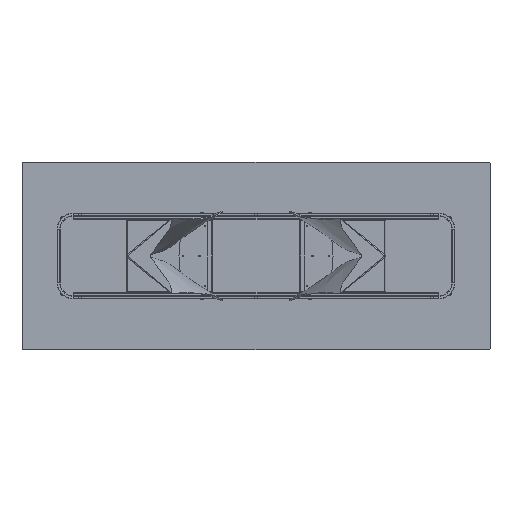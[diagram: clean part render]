
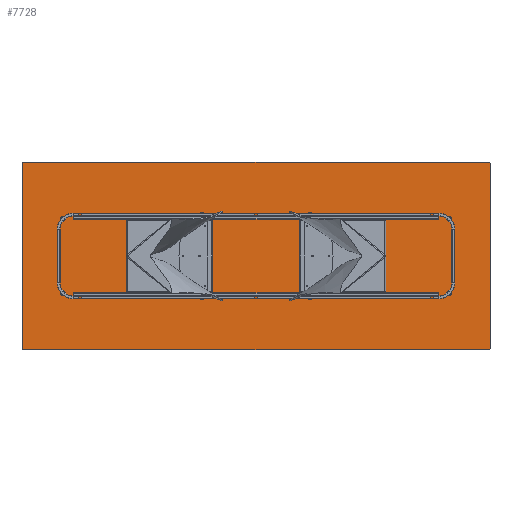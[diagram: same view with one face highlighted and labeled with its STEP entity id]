
A CAD part, front view. The second image highlights one B-rep face of the part: STEP entity #7728.
In plain terms, the highlighted planar face has unit normal (0, -1, 0).
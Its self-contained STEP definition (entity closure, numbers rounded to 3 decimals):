
#128 = DIRECTION ( 'NONE',  ( 0., -1., 0. ) ) ;
#662 = CARTESIAN_POINT ( 'NONE',  ( -1500., 0., -595. ) ) ;
#914 = FACE_OUTER_BOUND ( 'NONE', #2768, .T. ) ;
#1133 = DIRECTION ( 'NONE',  ( 0., 0., 1. ) ) ;
#1254 = DIRECTION ( 'NONE',  ( 0., -1., 0. ) ) ;
#1549 = CARTESIAN_POINT ( 'NONE',  ( 1495., 0., 600. ) ) ;
#1794 = EDGE_CURVE ( 'NONE', #18903, #20715, #4600, .T. ) ;
#2768 = EDGE_LOOP ( 'NONE', ( #15998, #18123, #14197, #13790, #4588, #6016, #11744, #6551 ) ) ;
#3133 = AXIS2_PLACEMENT_3D ( 'NONE', #14768, #7934, #20410 ) ;
#3542 = CARTESIAN_POINT ( 'NONE',  ( 1495., 0., -600. ) ) ;
#3758 = DIRECTION ( 'NONE',  ( 0., 0., 1. ) ) ;
#4000 = CARTESIAN_POINT ( 'NONE',  ( 1495., 0., -595. ) ) ;
#4588 = ORIENTED_EDGE ( 'NONE', *, *, #18877, .F. ) ;
#4600 = CIRCLE ( 'NONE', #3133, 5. ) ;
#5476 = VERTEX_POINT ( 'NONE', #16453 ) ;
#5605 = EDGE_CURVE ( 'NONE', #21978, #5476, #15176, .T. ) ;
#6016 = ORIENTED_EDGE ( 'NONE', *, *, #1794, .T. ) ;
#6038 = DIRECTION ( 'NONE',  ( 0., 0., -1. ) ) ;
#6122 = CARTESIAN_POINT ( 'NONE',  ( 1495., 0., 595. ) ) ;
#6551 = ORIENTED_EDGE ( 'NONE', *, *, #9767, .T. ) ;
#7353 = DIRECTION ( 'NONE',  ( 0., 0., 1. ) ) ;
#7436 = CIRCLE ( 'NONE', #20367, 5. ) ;
#7515 = AXIS2_PLACEMENT_3D ( 'NONE', #15045, #22094, #7353 ) ;
#7589 = DIRECTION ( 'NONE',  ( 0., -1., 0. ) ) ;
#7672 = EDGE_CURVE ( 'NONE', #14408, #8206, #15273, .T. ) ;
#7728 = ADVANCED_FACE ( 'NONE', ( #914 ), #7986, .F. ) ;
#7744 = CARTESIAN_POINT ( 'NONE',  ( -1495., 0., 600. ) ) ;
#7883 = VECTOR ( 'NONE', #18500, 1000. ) ;
#7934 = DIRECTION ( 'NONE',  ( 0., -1., 0. ) ) ;
#7986 = PLANE ( 'NONE',  #7515 ) ;
#7996 = LINE ( 'NONE', #13308, #13414 ) ;
#8206 = VERTEX_POINT ( 'NONE', #1549 ) ;
#8358 = CIRCLE ( 'NONE', #21642, 5. ) ;
#9082 = CARTESIAN_POINT ( 'NONE',  ( -1495., 0., -600. ) ) ;
#9543 = VERTEX_POINT ( 'NONE', #3542 ) ;
#9767 = EDGE_CURVE ( 'NONE', #9543, #5476, #7436, .T. ) ;
#10230 = EDGE_CURVE ( 'NONE', #14408, #14737, #18906, .T. ) ;
#10482 = CARTESIAN_POINT ( 'NONE',  ( -1500., 0., 600. ) ) ;
#10770 = VECTOR ( 'NONE', #18370, 1000. ) ;
#11132 = AXIS2_PLACEMENT_3D ( 'NONE', #12275, #128, #21075 ) ;
#11744 = ORIENTED_EDGE ( 'NONE', *, *, #22646, .F. ) ;
#12275 = CARTESIAN_POINT ( 'NONE',  ( -1495., 0., 595. ) ) ;
#13037 = EDGE_CURVE ( 'NONE', #21978, #8206, #8358, .T. ) ;
#13308 = CARTESIAN_POINT ( 'NONE',  ( -1500., 0., -600. ) ) ;
#13414 = VECTOR ( 'NONE', #21985, 1000. ) ;
#13790 = ORIENTED_EDGE ( 'NONE', *, *, #10230, .T. ) ;
#14197 = ORIENTED_EDGE ( 'NONE', *, *, #7672, .F. ) ;
#14408 = VERTEX_POINT ( 'NONE', #7744 ) ;
#14639 = VECTOR ( 'NONE', #6038, 1000. ) ;
#14737 = VERTEX_POINT ( 'NONE', #19286 ) ;
#14768 = CARTESIAN_POINT ( 'NONE',  ( -1495., 0., -595. ) ) ;
#15045 = CARTESIAN_POINT ( 'NONE',  ( 0., 0., 0. ) ) ;
#15176 = LINE ( 'NONE', #18640, #14639 ) ;
#15273 = LINE ( 'NONE', #10482, #7883 ) ;
#15998 = ORIENTED_EDGE ( 'NONE', *, *, #5605, .F. ) ;
#16453 = CARTESIAN_POINT ( 'NONE',  ( 1500., 0., -595. ) ) ;
#16673 = CARTESIAN_POINT ( 'NONE',  ( 1500., 0., 595. ) ) ;
#18123 = ORIENTED_EDGE ( 'NONE', *, *, #13037, .T. ) ;
#18370 = DIRECTION ( 'NONE',  ( 0., 0., 1. ) ) ;
#18500 = DIRECTION ( 'NONE',  ( 1., 0., 0. ) ) ;
#18640 = CARTESIAN_POINT ( 'NONE',  ( 1500., 0., -600. ) ) ;
#18877 = EDGE_CURVE ( 'NONE', #18903, #14737, #21609, .T. ) ;
#18903 = VERTEX_POINT ( 'NONE', #662 ) ;
#18906 = CIRCLE ( 'NONE', #11132, 5. ) ;
#19286 = CARTESIAN_POINT ( 'NONE',  ( -1500., 0., 595. ) ) ;
#19745 = CARTESIAN_POINT ( 'NONE',  ( -1500., 0., -600. ) ) ;
#20367 = AXIS2_PLACEMENT_3D ( 'NONE', #4000, #7589, #3758 ) ;
#20410 = DIRECTION ( 'NONE',  ( 0., 0., 1. ) ) ;
#20715 = VERTEX_POINT ( 'NONE', #9082 ) ;
#21075 = DIRECTION ( 'NONE',  ( 0., 0., 1. ) ) ;
#21609 = LINE ( 'NONE', #19745, #10770 ) ;
#21642 = AXIS2_PLACEMENT_3D ( 'NONE', #6122, #1254, #1133 ) ;
#21978 = VERTEX_POINT ( 'NONE', #16673 ) ;
#21985 = DIRECTION ( 'NONE',  ( -1., 0., 0. ) ) ;
#22094 = DIRECTION ( 'NONE',  ( 0., 1., 0. ) ) ;
#22646 = EDGE_CURVE ( 'NONE', #9543, #20715, #7996, .T. ) ;
